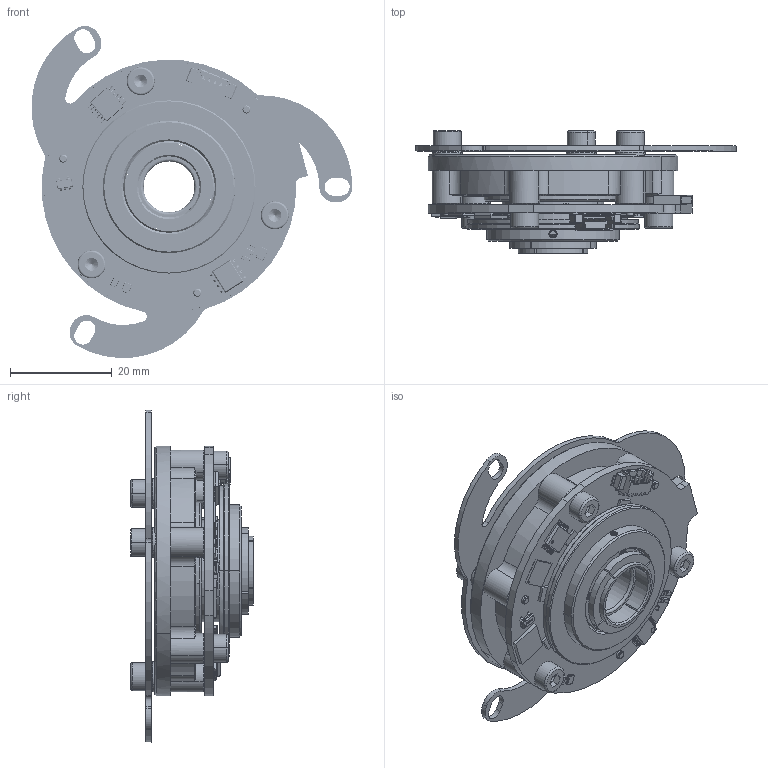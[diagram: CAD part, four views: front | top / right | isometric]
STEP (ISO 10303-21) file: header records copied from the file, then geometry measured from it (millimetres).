
FILE_DESCRIPTION((''),'2;1');
FILE_NAME('14_ASM','2024-12-23T',('Administrator'),(''),'PRO/ENGINEER BY PARAMETRIC TECHNOLOGY CORPORATION, 2014000','PRO/ENGINEER BY PARAMETRIC TECHNOLOGY CORPORATION, 2014000','');
FILE_SCHEMA(('CONFIG_CONTROL_DESIGN'));
Products named in the file (94): 臏殤__8; M3X6_GB70; MANIFOLD_SOLID_BREP_6_1_1; MANIFOLD_SOLID_BREP_66_1_1; MANIFOLD_SOLID_BREP_61__1_1; MANIFOLD_SOLID_BREP_67_1__1_1; MANIFOLD_SOLID_BREP_671__1_1; MANIFOLD_S_1_1; MANIFOLD_SOLID_BREP_6_1__1_1; PRT0002_1; MANIFOLD_SOLID_BREP_1__1_1; MANIFOLD_SOLID_BREP_6__1_1; MANIFOLD_SOLID_BREP1__1_1; MANIFOLD_SOLID_1__1_1; MANIFOLD_SOLID_BREP_1_1_1__1_1; MANIFOLD_SOLIEP__1_1__1_1; MANIFOLD_SOLID_BREP__1_1__1_1; MANIFOLD_SOLID_BREP_71_1__1_1; TSSOP-14_ASM_1_ASM_1_ASM_1__ASM_ASM; U12-66024_ASM_1_ASM_1_ASM_1__AS_ASM; 6X6X0_75_S_RGB0_1_1_1__1_1; U6-60916_ASM_1_ASM_1_ASM_1__ASM_ASM; UFQFPN32_44_RGB0_1_1_1__1_1; U11-61220_ASM_1_ASM_1_ASM_1__AS_ASM; MANIFOLD_SOLID_BREP___1_1; MANIFOLD_SOLID_BREP__1_1; MANIFOLD_SOLID_BREP__1_1_1__1_1; MANIFOLD_SOLID_BRE16_1_1_1__1_1; MANIFOLD_SOLID_BRE_1_1; MANIFOLD_SOLID_BREP_3_1_1; MANIFOLD_SOLID_BREP_37_1_1; NST112_RGB8421504_ASM1_A__ASM_1_ASM; A1-35377_ASM_1_ASM_1_ASM_1__ASM_ASM; SOT23-5-3595_1_1_1__1_1; SOT23-5AND6__1_1_1__1_1; MANIFOLD_SOLID_BREP_1_1_1; MANIFOLD_SOLID_BRE_1_1_1__1_1; MANIFOLD_SOLID_BRE1_1_1__1_1; MANIF_1_1; MANIFOL_1_1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
Assembly tree (114 placements, depth 7):
  14_ASM
    臏殤__8
    M3X6_GB70
    啋ん璃郪璃_AF___1__1_ASM
      啋ん璃_AF1__6__3__1___3__1_ASM
        U12-66024_ASM_1_ASM_1_ASM_1__AS_ASM
          TSSOP-14_ASM_1_ASM_1_ASM_1__ASM_ASM
            MANIFOLD_SOLID_BREP_6_1_1
            MANIFOLD_SOLID_BREP_66_1_1
            MANIFOLD_SOLID_BREP_61__1_1
            MANIFOLD_SOLID_BREP_67_1__1_1
            MANIFOLD_SOLID_BREP_671__1_1
            MANIFOLD_S_1_1
            MANIFOLD_SOLID_BREP_6_1__1_1
            PRT0002_1
            MANIFOLD_SOLID_BREP_1__1_1
            MANIFOLD_SOLID_BREP_6__1_1
            MANIFOLD_SOLID_BREP1__1_1
            MANIFOLD_SOLID_1__1_1
            MANIFOLD_SOLID_BREP_1_1_1__1_1
            MANIFOLD_SOLIEP__1_1__1_1
            MANIFOLD_SOLID_BREP__1_1__1_1
            MANIFOLD_SOLID_BREP_71_1__1_1
        U6-60916_ASM_1_ASM_1_ASM_1__ASM_ASM
          6X6X0_75_S_RGB0_1_1_1__1_1
        U11-61220_ASM_1_ASM_1_ASM_1__AS_ASM
          UFQFPN32_44_RGB0_1_1_1__1_1
        A1-35377_ASM_1_ASM_1_ASM_1__ASM_ASM
          NST112_RGB8421504_ASM1_A__ASM_1_ASM
            MANIFOLD_SOLID_BREP___1_1
            MANIFOLD_SOLID_BREP__1_1
            MANIFOLD_SOLID_BREP__1_1_1__1_1
            MANIFOLD_SOLID_BRE16_1_1_1__1_1
            MANIFOLD_SOLID_BRE_1_1
            MANIFOLD_SOLID_BREP_3_1_1
            MANIFOLD_SOLID_BREP_37_1_1
        U5-3544_ASM_1_ASM_1_ASM_1__ASM__ASM
          ASM0001_ASM_1_ASM
            SOT23-5-3595_1_1_1__1_1
            SOT23-5AND6__1_1_1__1_1  x5
            LOGO_0_15_ASM_1_ASM_1_ASM_1__AS_ASM
              MANIFOLD_SOLID_BREP_1_1_1
              MANIFOLD_SOLID_BRE_1_1_1__1_1
              MANIFOLD_SOLID_BRE1_1_1__1_1
              MANIF_1_1
              MANIFOL_1_1
              MANIFOLDD_BREP_1_1
              MANIFOLD_1_1
              MANIFOLD_SOLIDP_1_1_1__1_1
              MANIFOLD_SO_BREP_1__1_1
              MANIFOLD_SOLID_BREP2_1_1_1__1_1
              MANIFOLD_SOLID_BREP_14_1_1
              MANIFOLD_SOLID_BREP_68_1_1_1__1
              MANIFOLD_SOLID_BRE4_1_1
              MANIFOLD_SOLID_BRE5_1_1
        X1-31861_ASM_1_ASM_1_ASM_1__ASM_ASM
          OSCCC200X160X45_ASM__ASM_1_ASM__ASM
            MANIFOLD_SOLID_BRE-_1_1
            MANIFOLD_SOLID_BREP-_1_1
        R17-55906_ASM_1_ASM_1_ASM_1__AS  x7
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Bounding box: 62.97 x 24.07 x 65.15 mm (x, y, z)
Volume: 17313.7 mm3; surface area: 20984.5 mm2
Topology: 92 solids, 110 shells, 4089 faces, 10730 edges, 6853 vertices
Faces by surface type: plane 2298, cylinder 1118, sphere 197, bspline 133, torus 124, cone 115, extrusion 104
Entity records: 158048 total; most frequent: CARTESIAN_POINT 49376, ORIENTED_EDGE 18340, DIRECTION 17050, EDGE_CURVE 9176, VERTEX_POINT 5999, AXIS2_PLACEMENT_3D 5780, VECTOR 5490, LINE 5386
